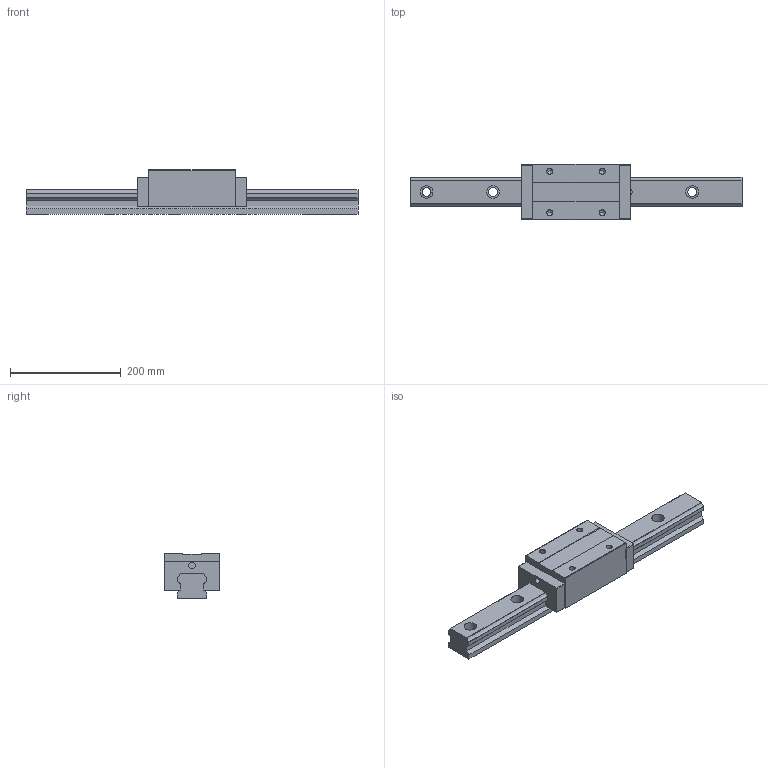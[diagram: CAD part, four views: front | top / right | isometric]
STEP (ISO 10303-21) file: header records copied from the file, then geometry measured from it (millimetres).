
FILE_DESCRIPTION (( 'STEP AP203' ), '1' );
FILE_NAME ('TRH55VE-XNC.STEP', '2024-08-16T06:53:10', ( '' ), ( '' ), 'SwSTEP 2.0', 'SolidWorks 2021', '' );
FILE_SCHEMA (( 'CONFIG_CONTROL_DESIGN' ));
Length unit declared in the file: millimetre
Products named in the file (1): TRH55VE-XNC
Bounding box: 600 x 100 x 80 mm (x, y, z)
Volume: 2147109.5 mm3; surface area: 219525.2 mm2
Topology: 1 solids, 1 shells, 160 faces, 440 edges, 282 vertices
Faces by surface type: plane 76, cylinder 68, cone 16
Entity records: 5139 total; most frequent: DIRECTION 900, CARTESIAN_POINT 875, ORIENTED_EDGE 864, EDGE_CURVE 432, AXIS2_PLACEMENT_3D 307, VECTOR 286, LINE 286, VERTEX_POINT 282
